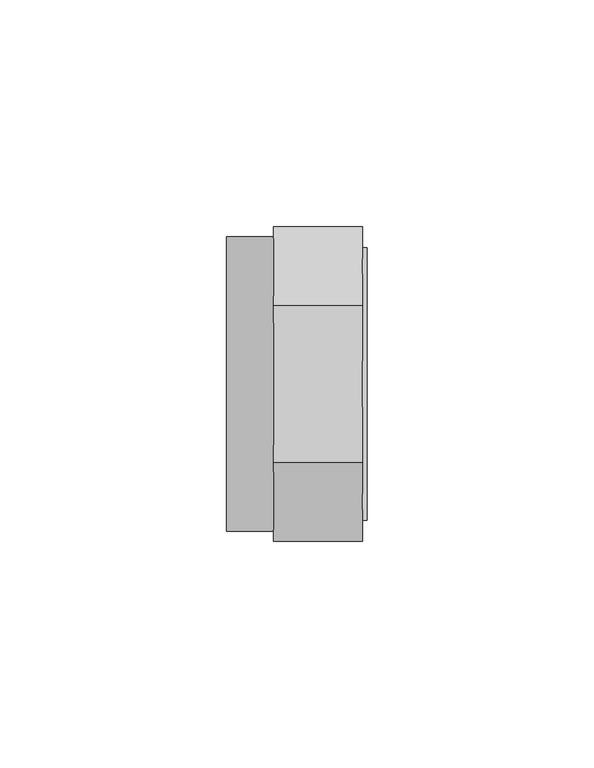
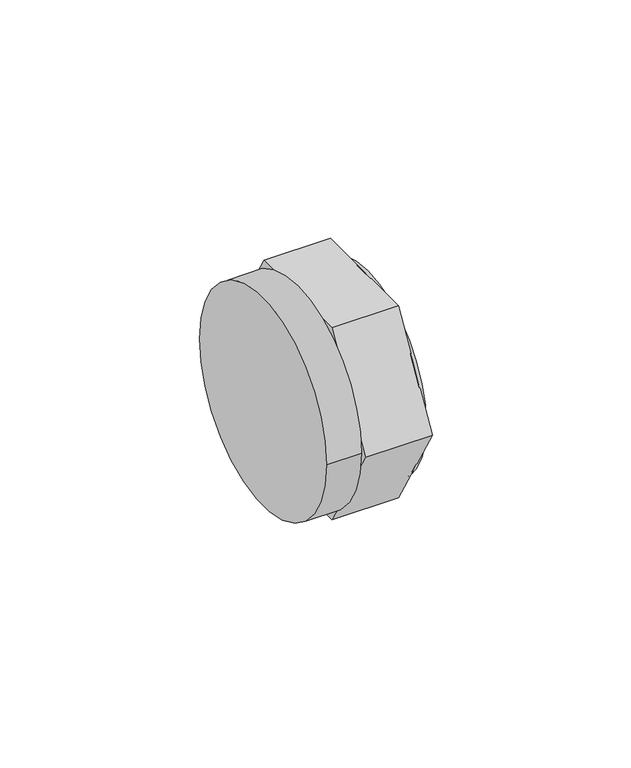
"""IFC4 building model written with IfcOpenShell, lengths in millimetres: pipe fitting geometry, 01011012 : Tampão F."""

import ifcopenshell
import ifcopenshell.guid

model = None  # the IFC model being written
_history = None  # IfcOwnerHistory: only IFC2X3 demands one
_inside = {}  # id of a spatial element -> (the spatial element, [elements in it])
_under = {}  # id of a project, library or spatial element -> (it, [spatial elements below it])
_declared = {}  # id of a project -> (the project, [libraries it declares])
_typed = {}  # id of a type object -> (the type object, [elements of that type])
_made_of = {}  # id of a material, layer set ... -> (it, [elements and type objects made of it])


def new_model(schema):
    """Start an empty IFC model of exactly this schema.

    Asked for "IFC4X3", IfcOpenShell would pick the latest addendum, in which some entities
    have other attributes; the version numbers below select the first issue.
    IFC2X3 requires an IfcOwnerHistory on every rooted entity: one is made here for all.
    """
    global model, _history
    if schema == "IFC4X3":
        model = ifcopenshell.file(schema_version=(4, 3, 0, 0))
    else:
        model = ifcopenshell.file(schema=schema)
    _inside.clear()
    _under.clear()
    _declared.clear()
    _typed.clear()
    _made_of.clear()
    _history = None
    if model.schema == "IFC2X3":
        org = make("IfcOrganization", Name="unknown")
        user = make(
            "IfcPersonAndOrganization",
            ThePerson=make("IfcPerson", FamilyName="unknown"),
            TheOrganization=org,
        )
        app = make(
            "IfcApplication",
            ApplicationDeveloper=org,
            Version="unknown",
            ApplicationFullName="unknown",
            ApplicationIdentifier="unknown",
        )
        _history = make(
            "IfcOwnerHistory",
            OwningUser=user,
            OwningApplication=app,
            ChangeAction="ADDED",
            CreationDate=0,
        )
    return model


def make(cls, **values):
    """One entity of the class cls with the attributes given. An attribute that is None is left unset."""
    return model.create_entity(
        cls, **{name: value for name, value in values.items() if value is not None}
    )


def rooted(cls, **values):
    """An entity with a GlobalId (a new one), such as an element, a storey or a relation."""
    return make(cls, GlobalId=ifcopenshell.guid.new(), OwnerHistory=_history, **values)


def si_unit(unit_type, name, prefix=None):
    """IfcSIUnit, for example si_unit("LENGTHUNIT", "METRE", prefix="MILLI")."""
    return make("IfcSIUnit", UnitType=unit_type, Prefix=prefix, Name=name)


def assignment(units):
    """IfcUnitAssignment: the units of a project."""
    return None if units is None else make("IfcUnitAssignment", Units=units)


def point(xyz):
    """IfcCartesianPoint."""
    return None if xyz is None else make("IfcCartesianPoint", Coordinates=xyz)


def direction(xyz):
    """IfcDirection."""
    return None if xyz is None else make("IfcDirection", DirectionRatios=xyz)


def frame(location, z_axis=None, x_axis=None):
    """IfcAxis2Placement3D, a coordinate frame: its origin and axes. An axis left out is left unset."""
    return make(
        "IfcAxis2Placement3D",
        Location=point(location),
        Axis=direction(z_axis),
        RefDirection=direction(x_axis),
    )


def frame_2d(location, x_axis=None):
    """IfcAxis2Placement2D, a coordinate frame in the plane: its origin and x axis."""
    return make(
        "IfcAxis2Placement2D", Location=point(location), RefDirection=direction(x_axis)
    )


def origin():
    """The frame at (0, 0, 0) with its axes left unset."""
    return frame((0.0, 0.0, 0.0))


def origin_2d():
    """The frame at (0, 0) in the plane with its x axis left unset."""
    return frame_2d((0.0, 0.0))


def place(relative_to, where):
    """IfcLocalPlacement: puts the frame where relative to a parent placement (None: the world)."""
    return make(
        "IfcLocalPlacement", PlacementRelTo=relative_to, RelativePlacement=where
    )


def context(
    kind, dimensions, precision=None, world=None, true_north=None, identifier=None
):
    """IfcGeometricRepresentationContext, for example the 3D "Model" context."""
    return make(
        "IfcGeometricRepresentationContext",
        ContextIdentifier=identifier,
        ContextType=kind,
        CoordinateSpaceDimension=dimensions,
        Precision=precision,
        WorldCoordinateSystem=world,
        TrueNorth=true_north,
    )


def project(units=None, contexts=None):
    """IfcProject with its units and contexts."""
    return rooted(
        "IfcProject",
        Name="project",
        RepresentationContexts=contexts,
        UnitsInContext=assignment(units),
    )


def spatial(cls, under=None, at=None, **own):
    """A site, building, storey or space (cls), placed at a placement, below another one or the project."""
    s = rooted(cls, ObjectPlacement=at, **own)
    if under is not None:
        _under.setdefault(under.id(), (under, []))[1].append(s)
    return s


def polyline(points):
    """IfcPolyline through the points."""
    return make("IfcPolyline", Points=[point(p) for p in points])


def circle_curve(where, radius):
    """IfcCircle in the frame where."""
    return make("IfcCircle", Position=where, Radius=radius)


def trimmed(basis, trim1, trim2, sense, master):
    """IfcTrimmedCurve: the piece of a basis curve between two trims."""
    return make(
        "IfcTrimmedCurve",
        BasisCurve=basis,
        Trim1=trim1,
        Trim2=trim2,
        SenseAgreement=sense,
        MasterRepresentation=master,
    )


def segment(curve, same_sense, transition):
    """IfcCompositeCurveSegment."""
    return make(
        "IfcCompositeCurveSegment",
        Transition=transition,
        SameSense=same_sense,
        ParentCurve=curve,
    )


def composite_curve(segments, self_intersect=None):
    """IfcCompositeCurve: segments joined end to end."""
    return make("IfcCompositeCurve", Segments=segments, SelfIntersect=self_intersect)


def outline(outer, holes=None, kind="AREA"):
    """IfcArbitraryClosedProfileDef: a profile drawn as a closed curve; with holes, ...WithVoids."""
    if holes is None:
        return make("IfcArbitraryClosedProfileDef", ProfileType=kind, OuterCurve=outer)
    return make(
        "IfcArbitraryProfileDefWithVoids",
        ProfileType=kind,
        OuterCurve=outer,
        InnerCurves=holes,
    )


def extrude(swept, where, along, depth):
    """IfcExtrudedAreaSolid: the profile swept, set in the frame where, extruded along a direction by depth."""
    return make(
        "IfcExtrudedAreaSolid",
        SweptArea=swept,
        Position=where,
        ExtrudedDirection=direction(along),
        Depth=depth,
    )


def shape(context_of_items, identifier, shape_type, items):
    """IfcShapeRepresentation: the items that make up one representation, for example the "Body"."""
    return make(
        "IfcShapeRepresentation",
        ContextOfItems=context_of_items,
        RepresentationIdentifier=identifier,
        RepresentationType=shape_type,
        Items=items,
    )


def source(mapping_origin, context_of_items, identifier, shape_type, items):
    """IfcRepresentationMap: a shape defined once, which mapped items show again and again."""
    return make(
        "IfcRepresentationMap",
        MappingOrigin=mapping_origin,
        MappedRepresentation=shape(context_of_items, identifier, shape_type, items),
    )


def transform(
    local_origin,
    x_axis=None,
    y_axis=None,
    z_axis=None,
    scale=None,
    scale2=None,
    scale3=None,
    uniform=True,
):
    """IfcCartesianTransformationOperator3D, or its non-uniform kind. x_axis, y_axis, z_axis: its Axis1, 2, 3."""
    if uniform:
        return make(
            "IfcCartesianTransformationOperator3D",
            Axis1=direction(x_axis),
            Axis2=direction(y_axis),
            LocalOrigin=point(local_origin),
            Scale=scale,
            Axis3=direction(z_axis),
        )
    return make(
        "IfcCartesianTransformationOperator3DnonUniform",
        Axis1=direction(x_axis),
        Axis2=direction(y_axis),
        LocalOrigin=point(local_origin),
        Scale=scale,
        Axis3=direction(z_axis),
        Scale2=scale2,
        Scale3=scale3,
    )


def mapped(mapping_source, mapping_target):
    """IfcMappedItem: shows the shape of a source again, moved by a transform."""
    return make(
        "IfcMappedItem", MappingSource=mapping_source, MappingTarget=mapping_target
    )


def made_of(thing, what):
    """Note that an element or type object is made of a material, layer set ...; save() writes the relation."""
    if what is not None:
        _made_of.setdefault(what.id(), (what, []))[1].append(thing)
    return thing


def element(
    cls,
    number,
    at=None,
    inside=None,
    cuts=None,
    type_object=None,
    material=None,
    context=None,
    identifier="Body",
    shape_type=None,
    held_by="IfcProductDefinitionShape",
    body=None,
    shapes=None,
    **own,
):
    """One element of the class cls, such as IfcWall. Its Tag is "e" and its number.

    at: its placement. inside: the storey or other place that contains it. cuts: it is an
    opening in that element (IfcRelVoidsElement). A single representation is given by context,
    identifier, shape_type and body (its items); several are given by shapes. held_by: the class
    of the entity that holds the representations. save() writes the other relations.
    """
    e = rooted(cls, Tag="e%d" % number, ObjectPlacement=at, **own)
    if body is not None:
        shapes = [shape(context, identifier, shape_type, body)]
    if shapes is not None:
        e.Representation = make(held_by, Representations=shapes)
    if inside is not None:
        _inside.setdefault(inside.id(), (inside, []))[1].append(e)
    if cuts is not None:
        rooted(
            "IfcRelVoidsElement", RelatingBuildingElement=cuts, RelatedOpeningElement=e
        )
    if type_object is not None:
        _typed.setdefault(type_object.id(), (type_object, []))[1].append(e)
    return made_of(e, material)


def aggregate(whole, parts):
    """IfcRelAggregates: a whole, such as a stair, and the parts it consists of."""
    return rooted("IfcRelAggregates", RelatingObject=whole, RelatedObjects=parts)


def save(model, path):
    """Write the relations noted so far, then the file.

    IfcRelAggregates (storeys below a building ...), IfcRelContainedInSpatialStructure (elements
    in a storey), IfcRelDefinesByType, IfcRelAssociatesMaterial and IfcRelDeclares: one each for
    every whole, place, type object, material and project.
    """
    for whole, parts in _under.values():
        aggregate(whole, parts)
    for where, things in _inside.values():
        rooted(
            "IfcRelContainedInSpatialStructure",
            RelatedElements=things,
            RelatingStructure=where,
        )
    for kind, things in _typed.values():
        rooted("IfcRelDefinesByType", RelatedObjects=things, RelatingType=kind)
    for what, things in _made_of.values():
        rooted("IfcRelAssociatesMaterial", RelatedObjects=things, RelatingMaterial=what)
    for by, libraries in _declared.values():
        rooted("IfcRelDeclares", RelatingContext=by, RelatedDefinitions=libraries)
    model.write(path)


def pipe_fitting_7da2fea1(model_context):
    return source(origin(), model_context, "Body", "SweptSolid", [
        extrude(outline(composite_curve([segment(trimmed(circle_curve(origin_2d(), 30.0), [point((-30.0, 0.0))], [point((30.0, 0.0))], False, "CARTESIAN"), True, "CONTINUOUS"), segment(trimmed(circle_curve(origin_2d(), 30.0), [point((30.0, 0.0))], [point((-30.0, 0.0))], False, "CARTESIAN"), True, "CONTINUOUS")], self_intersect=False)), frame((30.0, 0.0, 0.0), z_axis=(1.0, 0.0, 0.0), x_axis=(0.0, 1.0, 0.0)), (0.0, 0.0, 1.0), 1.0),
        extrude(outline(composite_curve([segment(trimmed(circle_curve(origin_2d(), 32.5), [point((-32.5, 0.0))], [point((32.5, 0.0))], False, "CARTESIAN"), True, "CONTINUOUS"), segment(trimmed(circle_curve(origin_2d(), 32.5), [point((32.5, 0.0))], [point((-32.5, 0.0))], False, "CARTESIAN"), True, "CONTINUOUS")], self_intersect=False)), frame((0.0, 0.0, 0.0), z_axis=(1.0, 0.0, 0.0), x_axis=(0.0, 1.0, 0.0)), (0.0, 0.0, 1.0), 10.3333333),
        extrude(outline(polyline([(-17.3205081, 30.0), (17.3205081, 30.0), (34.6410162, 0.0), (17.3205081, -30.0), (-17.3205081, -30.0), (-34.6410162, 0.0), (-17.3205081, 30.0)])), frame((10.3333333, 0.0, 0.0), z_axis=(1.0, 0.0, 0.0), x_axis=(0.0, 1.0, 0.0)), (0.0, 0.0, 1.0), 19.6666667),
    ])


if __name__ == "__main__":
    model = new_model("IFC4")
    model_context = context("Model", 3, world=origin())
    ifc_project = project(units=[si_unit("LENGTHUNIT", "METRE", prefix="MILLI")], contexts=[model_context])
    site = spatial("IfcSite", under=ifc_project)
    building = spatial("IfcBuilding", under=site)
    placement = place(None, origin())
    pipe_fitting_shape = pipe_fitting_7da2fea1(model_context)
    element("IfcPipeFitting", 1, ObjectType="01011012 : Tampão F", at=placement, inside=building, context=model_context, shape_type="MappedRepresentation", body=[
        mapped(pipe_fitting_shape, transform((0.0, 0.0, 0.0), x_axis=(1.0, 0.0, 0.0), y_axis=(0.0, 1.0, 0.0), z_axis=(0.0, 0.0, 1.0))),
    ])
    save(model, "model.ifc")
